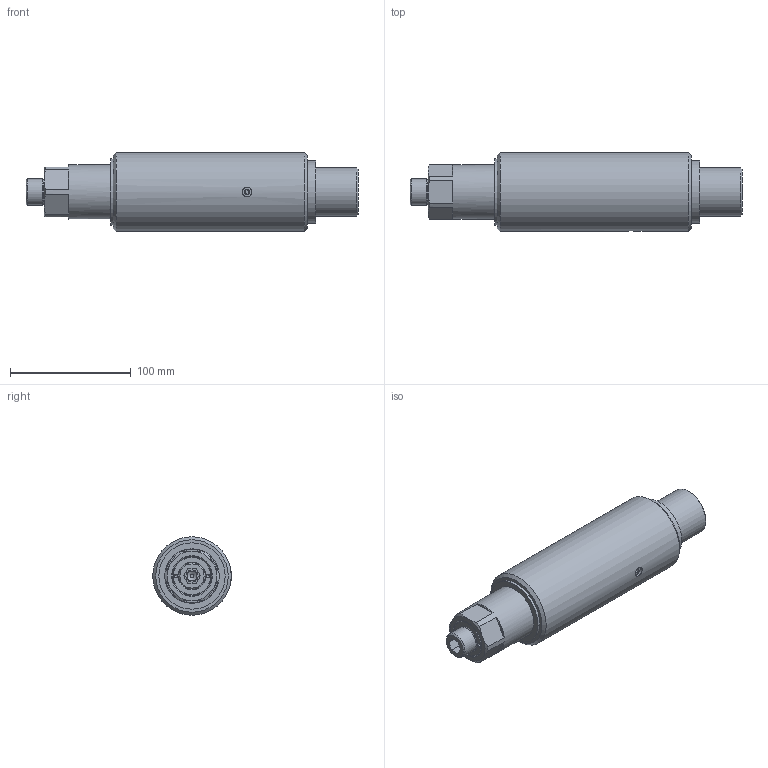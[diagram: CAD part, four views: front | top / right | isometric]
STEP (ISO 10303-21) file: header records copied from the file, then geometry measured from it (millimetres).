
FILE_DESCRIPTION( ( 'Unknown' ), '1' );
FILE_NAME( 'C:/Users/Wucherer/Desktop/MSPD 65 L1=170.stp', 'Unknown', ( 'Unknown' ), ( 'Unknown' ), 'PSStep 10.1', 'Unknown', ' ' );
FILE_SCHEMA( ( 'AUTOMOTIVE_DESIGN { 1 0 10303 214 1 1 1 1 }' ) );
Length unit declared in the file: millimetre
Products named in the file (1): 40909381
Bounding box: 275 x 65 x 65 mm (x, y, z)
Volume: 675992.3 mm3; surface area: 62809.3 mm2
Topology: 1 solids, 5 shells, 126 faces, 287 edges, 183 vertices
Faces by surface type: plane 62, cone 34, cylinder 28, torus 2
Full cylindrical faces by diameter (mm): 3 x3, 4.2 x3, 8 x2, 10 x1, 15 x1, 16.5 x1, 20 x2, 20.5 x1, 22 x3, 27 x1, 28 x1, 31 x1, 31.5 x1, 40 x1, 45 x1, 52 x1, 55 x1, 65 x1
Entity records: 4428 total; most frequent: CARTESIAN_POINT 868, DIRECTION 536, ORIENTED_EDGE 434, AXIS2_PLACEMENT_3D 232, EDGE_CURVE 217, EDGE_LOOP 196, VERTEX_POINT 166, FACE_OUTER_BOUND 154
